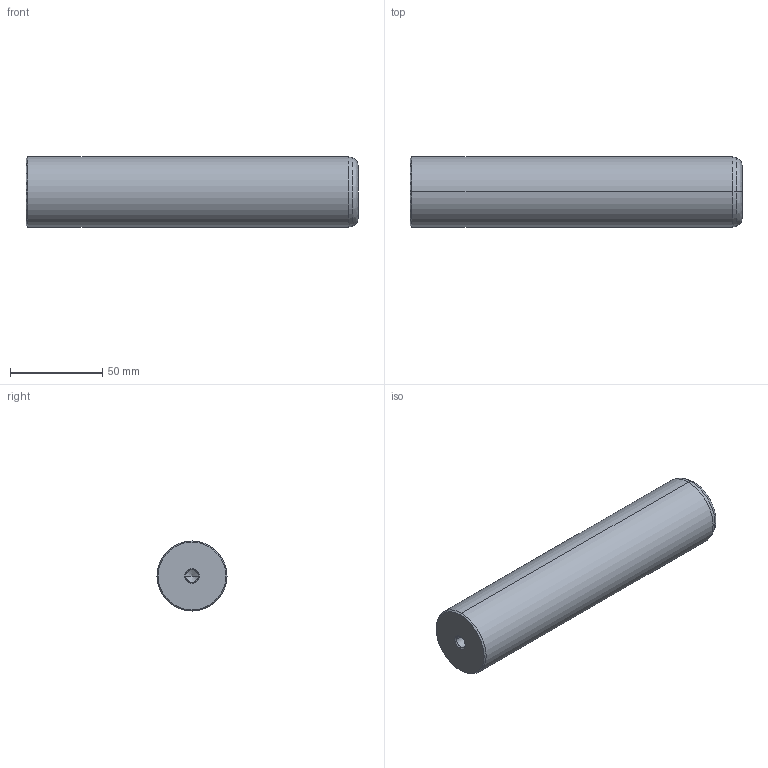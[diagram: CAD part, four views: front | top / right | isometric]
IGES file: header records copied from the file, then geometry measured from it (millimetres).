
Start section: START RECORD GO HERE.
Global section: file name: 720-38x180.igs; native system: DASSAULT SYSTEMES CATIA V5 R20 - www.3ds.com; preprocessor: CATIA Version 5 Release 20 ; author: Utente; organization: NB04-ASUS; date: 20210101.130725; units: millimetre
Bounding box: 180 x 38 x 38 mm (x, y, z)
Surface area: 24443.2 mm2 (no closed solid volume)
Topology: 0 solids, 0 shells, 22 faces, 108 edges, 104 vertices
Faces by surface type: revolution 20, plane 2
